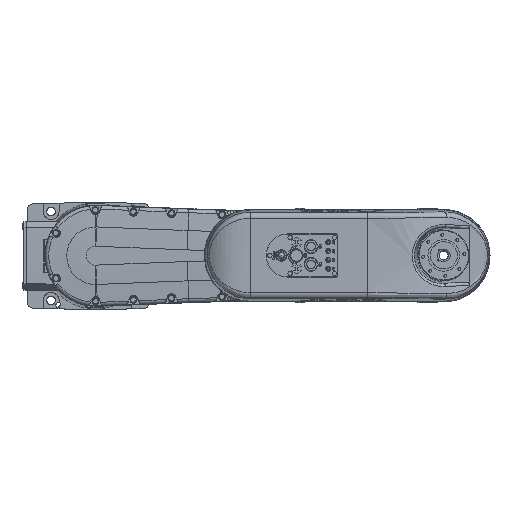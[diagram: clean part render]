
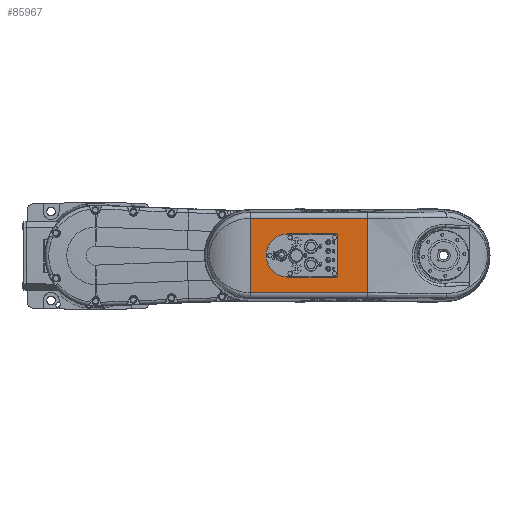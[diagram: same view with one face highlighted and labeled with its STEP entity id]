
A CAD part, top view. The second image highlights one B-rep face of the part: STEP entity #85967.
In plain terms, the highlighted planar face has unit normal (0, 0, 1).
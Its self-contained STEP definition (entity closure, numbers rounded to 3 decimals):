
#351 = CARTESIAN_POINT ( 'NONE',  ( 430., -59.156, 457.7 ) ) ;
#2516 = ORIENTED_EDGE ( 'NONE', *, *, #82179, .T. ) ;
#2620 = CARTESIAN_POINT ( 'NONE',  ( 382.5, 33.172, 457.7 ) ) ;
#3073 = VERTEX_POINT ( 'NONE', #76254 ) ;
#3301 = CARTESIAN_POINT ( 'NONE',  ( 380.501, -34., 457.7 ) ) ;
#5537 = EDGE_CURVE ( 'NONE', #31935, #37666, #55187, .T. ) ;
#6211 = DIRECTION ( 'NONE',  ( 1., 0., 0. ) ) ;
#7835 = DIRECTION ( 'NONE',  ( -1., 0., 0. ) ) ;
#8001 = VECTOR ( 'NONE', #7835, 1000. ) ;
#10782 = CARTESIAN_POINT ( 'NONE',  ( 380.501, 34., 457.7 ) ) ;
#13862 = EDGE_LOOP ( 'NONE', ( #77725, #2516, #70186, #18329 ) ) ;
#14698 = EDGE_CURVE ( 'NONE', #28143, #30704, #88194, .T. ) ;
#15860 = DIRECTION ( 'NONE',  ( 0., 1., 0. ) ) ;
#16022 = CARTESIAN_POINT ( 'NONE',  ( 382.5, 34., 457.7 ) ) ;
#17894 = CARTESIAN_POINT ( 'NONE',  ( 430., -705.455, 457.7 ) ) ;
#18329 = ORIENTED_EDGE ( 'NONE', *, *, #71464, .T. ) ;
#18954 = DIRECTION ( 'NONE',  ( -1., 0., 0. ) ) ;
#20054 = VECTOR ( 'NONE', #55129, 1000. ) ;
#20466 = ORIENTED_EDGE ( 'NONE', *, *, #5537, .F. ) ;
#20647 = EDGE_CURVE ( 'NONE', #28911, #3073, #93999, .T. ) ;
#22080 = FACE_BOUND ( 'NONE', #71898, .T. ) ;
#22143 = CARTESIAN_POINT ( 'NONE',  ( 303.5, -34., 457.7 ) ) ;
#23143 = VERTEX_POINT ( 'NONE', #22143 ) ;
#23154 = VECTOR ( 'NONE', #15860, 1000. ) ;
#24145 = CARTESIAN_POINT ( 'NONE',  ( 382.5, 32.001, 457.7 ) ) ;
#27328 = CARTESIAN_POINT ( 'NONE',  ( 430., 59.156, 457.7 ) ) ;
#28143 = VERTEX_POINT ( 'NONE', #351 ) ;
#28911 = VERTEX_POINT ( 'NONE', #60916 ) ;
#29257 = CARTESIAN_POINT ( 'NONE',  ( 382.5, -32.001, 457.7 ) ) ;
#30704 = VERTEX_POINT ( 'NONE', #27328 ) ;
#31935 = VERTEX_POINT ( 'NONE', #61489 ) ;
#34429 = EDGE_CURVE ( 'NONE', #3073, #23143, #39624, .T. ) ;
#37666 = VERTEX_POINT ( 'NONE', #51865 ) ;
#38683 = VERTEX_POINT ( 'NONE', #58570 ) ;
#39624 = CIRCLE ( 'NONE', #67486, 34. ) ;
#44067 = CARTESIAN_POINT ( 'NONE',  ( 245., 59.156, 457.7 ) ) ;
#44076 = ORIENTED_EDGE ( 'NONE', *, *, #57040, .T. ) ;
#44542 = CARTESIAN_POINT ( 'NONE',  ( 245., -705.242, 457.7 ) ) ;
#45009 = LINE ( 'NONE', #47946, #81626 ) ;
#45186 = CARTESIAN_POINT ( 'NONE',  ( 380.501, -34., 457.7 ) ) ;
#46409 = CARTESIAN_POINT ( 'NONE',  ( 382.5, -34., 457.7 ) ) ;
#47946 = CARTESIAN_POINT ( 'NONE',  ( 430., -59.156, 457.7 ) ) ;
#48270 = AXIS2_PLACEMENT_3D ( 'NONE', #76505, #69306, #6211 ) ;
#51865 = CARTESIAN_POINT ( 'NONE',  ( 382.5, 32.001, 457.7 ) ) ;
#53046 = VECTOR ( 'NONE', #18954, 1000. ) ;
#54477 = ORIENTED_EDGE ( 'NONE', *, *, #79098, .F. ) ;
#55129 = DIRECTION ( 'NONE',  ( 1., 0., 0. ) ) ;
#55187 = LINE ( 'NONE', #87508, #63434 ) ;
#56218 =( BOUNDED_CURVE ( )  B_SPLINE_CURVE ( 3, ( #29257, #91904, #75496, #45186 ),
 .UNSPECIFIED., .F., .F. ) 
 B_SPLINE_CURVE_WITH_KNOTS ( ( 4, 4 ),
 ( 2.357, 3.927 ),
 .UNSPECIFIED. ) 
 CURVE ( )  GEOMETRIC_REPRESENTATION_ITEM ( )  RATIONAL_B_SPLINE_CURVE ( ( 1., 0.805, 0.805, 1. ) ) 
 REPRESENTATION_ITEM ( '' )  );
#57040 = EDGE_CURVE ( 'NONE', #31935, #87988, #56218, .T. ) ;
#58027 = VERTEX_POINT ( 'NONE', #87389 ) ;
#58570 = CARTESIAN_POINT ( 'NONE',  ( 245., 59.156, 457.7 ) ) ;
#60579 = FACE_OUTER_BOUND ( 'NONE', #13862, .T. ) ;
#60916 = CARTESIAN_POINT ( 'NONE',  ( 380.501, 34., 457.7 ) ) ;
#61221 = CARTESIAN_POINT ( 'NONE',  ( 303.5, 0., 457.7 ) ) ;
#61489 = CARTESIAN_POINT ( 'NONE',  ( 382.5, -32.001, 457.7 ) ) ;
#63434 = VECTOR ( 'NONE', #95696, 1000. ) ;
#67486 = AXIS2_PLACEMENT_3D ( 'NONE', #61221, #84843, #93034 ) ;
#69306 = DIRECTION ( 'NONE',  ( 0., 0., 1. ) ) ;
#70186 = ORIENTED_EDGE ( 'NONE', *, *, #92731, .F. ) ;
#70191 =( BOUNDED_CURVE ( )  B_SPLINE_CURVE ( 3, ( #10782, #79089, #2620, #24145 ),
 .UNSPECIFIED., .F., .F. ) 
 B_SPLINE_CURVE_WITH_KNOTS ( ( 4, 4 ),
 ( 2.357, 3.927 ),
 .UNSPECIFIED. ) 
 CURVE ( )  GEOMETRIC_REPRESENTATION_ITEM ( )  RATIONAL_B_SPLINE_CURVE ( ( 1., 0.805, 0.805, 1. ) ) 
 REPRESENTATION_ITEM ( '' )  );
#71464 = EDGE_CURVE ( 'NONE', #58027, #28143, #45009, .T. ) ;
#71898 = EDGE_LOOP ( 'NONE', ( #93235, #93735, #20466, #44076, #54477, #84221 ) ) ;
#75402 = LINE ( 'NONE', #44067, #53046 ) ;
#75496 = CARTESIAN_POINT ( 'NONE',  ( 381.672, -34., 457.7 ) ) ;
#75861 = DIRECTION ( 'NONE',  ( 0., 1., 0. ) ) ;
#76254 = CARTESIAN_POINT ( 'NONE',  ( 303.5, 34., 457.7 ) ) ;
#76505 = CARTESIAN_POINT ( 'NONE',  ( 245., 0., 457.7 ) ) ;
#77725 = ORIENTED_EDGE ( 'NONE', *, *, #14698, .T. ) ;
#78235 = LINE ( 'NONE', #46409, #20054 ) ;
#78743 = DIRECTION ( 'NONE',  ( 1., 0., 0. ) ) ;
#79089 = CARTESIAN_POINT ( 'NONE',  ( 381.672, 34., 457.7 ) ) ;
#79098 = EDGE_CURVE ( 'NONE', #23143, #87988, #78235, .T. ) ;
#79978 = VECTOR ( 'NONE', #75861, 1000. ) ;
#81155 = LINE ( 'NONE', #44542, #79978 ) ;
#81626 = VECTOR ( 'NONE', #78743, 1000. ) ;
#82179 = EDGE_CURVE ( 'NONE', #30704, #38683, #75402, .T. ) ;
#84186 = PLANE ( 'NONE',  #48270 ) ;
#84221 = ORIENTED_EDGE ( 'NONE', *, *, #34429, .F. ) ;
#84843 = DIRECTION ( 'NONE',  ( 0., 0., 1. ) ) ;
#85967 = ADVANCED_FACE ( 'NONE', ( #22080, #60579 ), #84186, .T. ) ;
#87389 = CARTESIAN_POINT ( 'NONE',  ( 245., -59.156, 457.7 ) ) ;
#87508 = CARTESIAN_POINT ( 'NONE',  ( 382.5, 34., 457.7 ) ) ;
#87988 = VERTEX_POINT ( 'NONE', #3301 ) ;
#88194 = LINE ( 'NONE', #17894, #23154 ) ;
#91904 = CARTESIAN_POINT ( 'NONE',  ( 382.5, -33.172, 457.7 ) ) ;
#92731 = EDGE_CURVE ( 'NONE', #58027, #38683, #81155, .T. ) ;
#93034 = DIRECTION ( 'NONE',  ( 0., 1., 0. ) ) ;
#93235 = ORIENTED_EDGE ( 'NONE', *, *, #20647, .F. ) ;
#93735 = ORIENTED_EDGE ( 'NONE', *, *, #94179, .T. ) ;
#93999 = LINE ( 'NONE', #16022, #8001 ) ;
#94179 = EDGE_CURVE ( 'NONE', #28911, #37666, #70191, .T. ) ;
#95696 = DIRECTION ( 'NONE',  ( 0., 1., 0. ) ) ;
